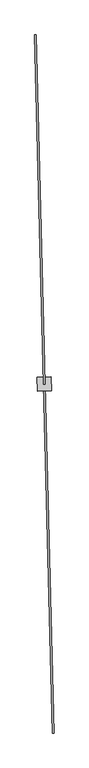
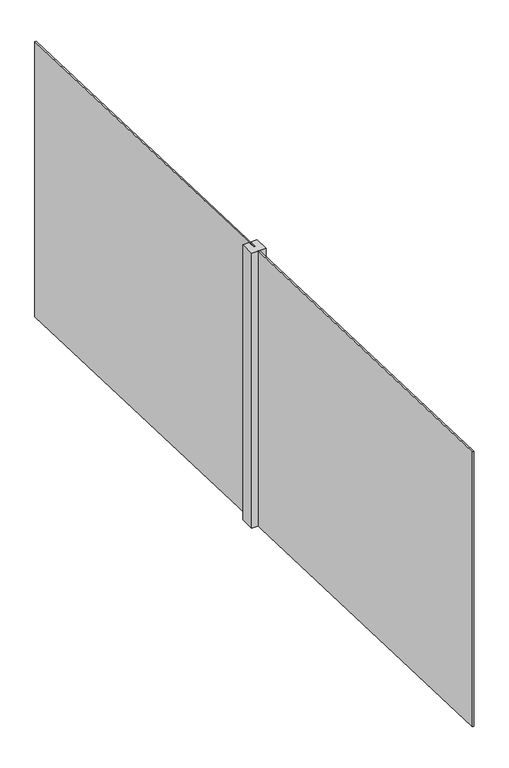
"""IFC4 building model written with IfcOpenShell, lengths in millimetres: railing geometry, REJA_PERIMETRAL_S-PILAR_2000mm."""

from ifc_helpers import new_model, si_unit, frame, origin, place, context, project, spatial, polyline, outline, extrude, source, transform, mapped, element, save


def railing_3146d198(model_context):
    return source(origin(), model_context, "Body", "SweptSolid", [
        extrude(outline(polyline([(21452.0541964, -20876.865147), (21387.6038124, -18377.6960555), (21397.6004887, -18377.438254), (21462.0508728, -20876.6073455), (21452.0541964, -20876.865147)])), frame((0.0, 0.0, -900.0), z_axis=(0.0, 0.0, 1.0), x_axis=(1.0, 0.0, 0.0)), (0.0, 0.0, 1.0), 2000.0),
        extrude(outline(polyline([(21408.3388165, -20927.2585403), (21405.7608011, -20827.2917766), (21505.7275648, -20824.7137612), (21508.3055801, -20924.6805249), (21408.3388165, -20927.2585403)])), frame((0.0, 0.0, -900.0), z_axis=(0.0, 0.0, 1.0), x_axis=(1.0, 0.0, 0.0)), (0.0, 0.0, 1.0), 2000.0),
        extrude(outline(polyline([(21516.4658925, -23374.5340475), (21452.0155084, -20875.364956), (21462.0121848, -20875.1071544), (21526.4625688, -23374.276246), (21516.4658925, -23374.5340475)])), frame((0.0, 0.0, -900.0), z_axis=(0.0, 0.0, 1.0), x_axis=(1.0, 0.0, 0.0)), (0.0, 0.0, 1.0), 2000.0),
    ])


if __name__ == "__main__":
    model = new_model("IFC4")
    model_context = context("Model", 3, world=origin())
    ifc_project = project(units=[si_unit("LENGTHUNIT", "METRE", prefix="MILLI")], contexts=[model_context])
    site = spatial("IfcSite", under=ifc_project)
    building = spatial("IfcBuilding", under=site)
    placement = place(None, origin())
    railing_shape = railing_3146d198(model_context)
    element("IfcRailing", 1, ObjectType="REJA_PERIMETRAL_S-PILAR_2000mm", at=placement, inside=building, context=model_context, shape_type="MappedRepresentation", body=[
        mapped(railing_shape, transform((0.0, 0.0, 0.0), x_axis=(1.0, 0.0, 0.0), y_axis=(0.0, 1.0, 0.0), z_axis=(0.0, 0.0, 1.0))),
    ])
    save(model, "model.ifc")
